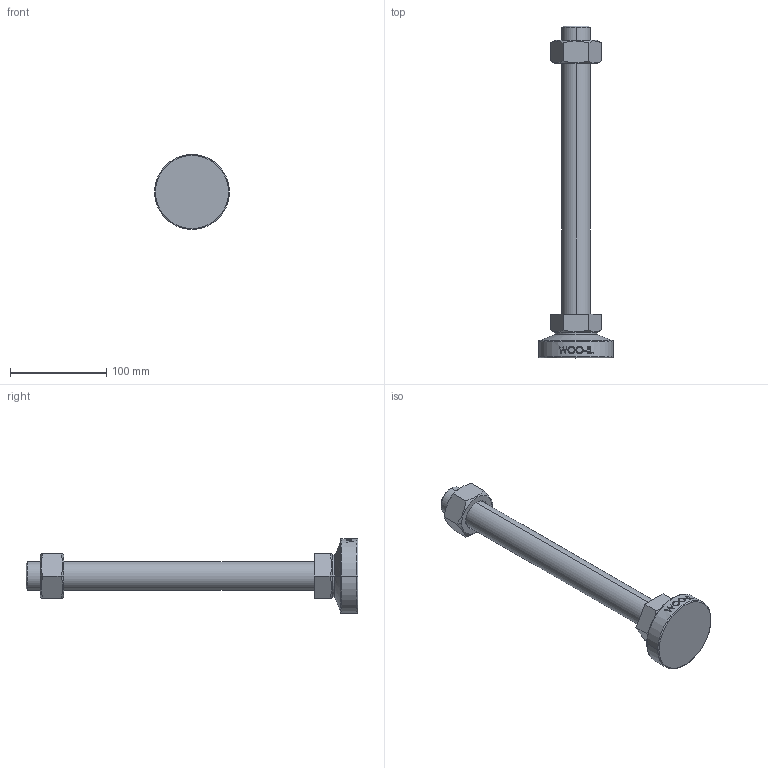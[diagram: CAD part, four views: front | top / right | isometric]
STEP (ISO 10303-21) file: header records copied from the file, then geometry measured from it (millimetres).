
FILE_DESCRIPTION (( 'STEP AP214' ), '1' );
FILE_NAME ('MFB78-M30-300.step', '2022-06-27T08:36:26', ( '' ), ( '' ), 'SwSTEP 2.0', 'SolidWorks 2019', '' );
FILE_SCHEMA (( 'AUTOMOTIVE_DESIGN' ));
Length unit declared in the file: millimetre
Products named in the file (1): MFB78-M30-300
Bounding box: 78 x 345.5 x 78 mm (x, y, z)
Volume: 379927.1 mm3; surface area: 56965 mm2
Topology: 3 solids, 3 shells, 97 faces, 225 edges, 144 vertices
Faces by surface type: plane 47, cylinder 16, bspline 16, cone 14, torus 4
Entity records: 4305 total; most frequent: CARTESIAN_POINT 2175, ORIENTED_EDGE 450, DIRECTION 385, EDGE_CURVE 225, AXIS2_PLACEMENT_3D 144, VERTEX_POINT 144, EDGE_LOOP 109, ADVANCED_FACE 97
